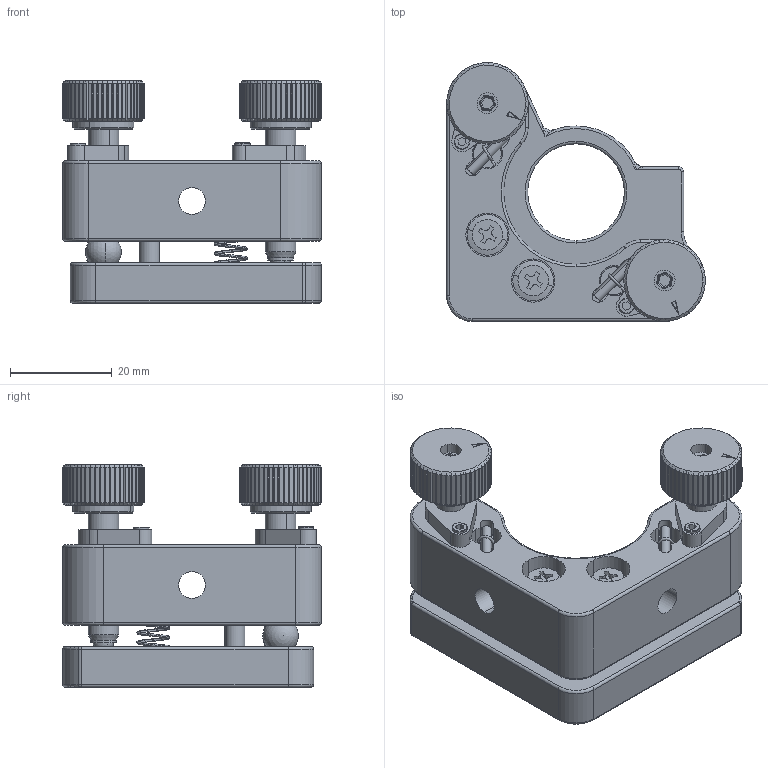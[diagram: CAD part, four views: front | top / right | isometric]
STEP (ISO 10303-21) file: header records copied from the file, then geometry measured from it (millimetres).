
FILE_DESCRIPTION (( 'STEP AP203' ), '1' );
FILE_NAME ('M-TNO-08R-HOC.STEP', '2020-07-08T07:42:07', ( '匠星' ), ( '' ), 'SwSTEP 2.0', 'SolidWorks 2019', '' );
FILE_SCHEMA (( 'CONFIG_CONTROL_DESIGN' ));
Length unit declared in the file: millimetre
Products named in the file (2): M-TNO-08R-HOC
Bounding box: 50.8 x 50.8 x 43.74 mm (x, y, z)
Volume: 30809 mm3; surface area: 17611.5 mm2
Topology: 17 solids, 20 shells, 1022 faces, 2588 edges, 1629 vertices
Faces by surface type: cylinder 426, plane 414, torus 82, cone 68, sphere 22, bspline 10
Entity records: 35878 total; most frequent: CARTESIAN_POINT 11621, ORIENTED_EDGE 5094, DIRECTION 5041, EDGE_CURVE 2547, AXIS2_PLACEMENT_3D 2000, VERTEX_POINT 1622, EDGE_LOOP 1111, VECTOR 1041
